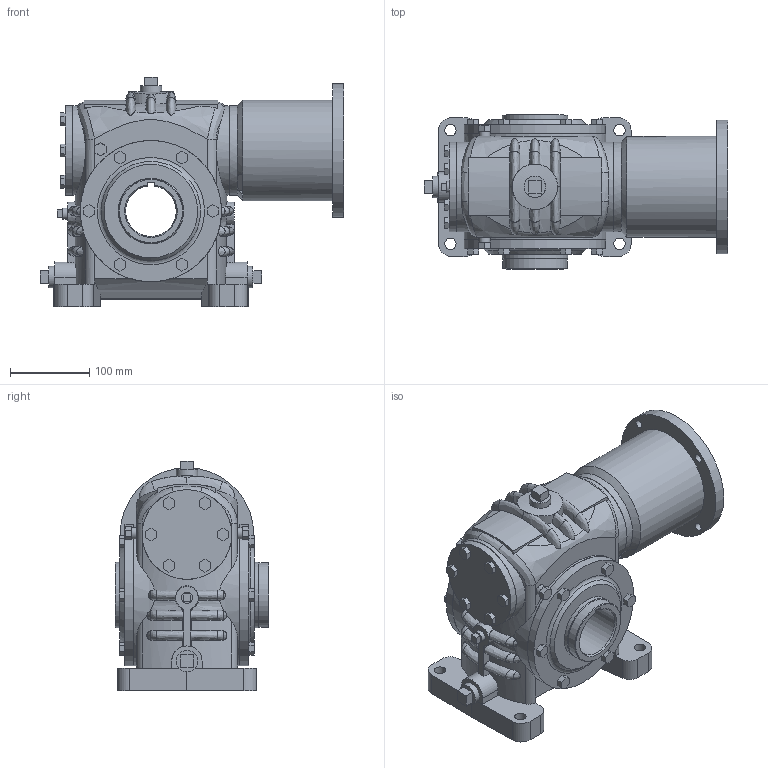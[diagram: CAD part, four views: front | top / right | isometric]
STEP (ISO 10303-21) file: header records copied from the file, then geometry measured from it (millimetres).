
FILE_DESCRIPTION(/* description */ ('Unknown'),/* implementation_level */ '2;1');
FILE_NAME(/* name */ 'HO-30-1-NBNG010',/* time_stamp */ '2024-11-21T09:24:01-05:00',/* author */ ('Unknown'),/* organization */ ('Unknown'),/* preprocessor_version */ 'ST-DEVELOPER v19.4',/* originating_system */ 'Solid Edge',/* authorisation */ 'Unknown');
FILE_SCHEMA (('AUTOMOTIVE_DESIGN {1 0 10303 214 3 1 1}'));
Length unit declared in the file: millimetre
Products named in the file (6): HO-30-1-NBNG010; 30-1-CP; 30-OUTHS-2500; 30-OUTH-2500; 30-MTR45-56C; 30-WCAP
Assembly tree (5 placements, depth 2):
  HO-30-1-NBNG010
    30-1-CP
    30-OUTHS-2500
    30-OUTH-2500
    30-MTR45-56C
    30-WCAP
Bounding box: 382.38 x 193.68 x 289.18 mm (x, y, z)
Volume: 7491919.5 mm3; surface area: 667479.4 mm2
Topology: 5 solids, 5 shells, 506 faces, 1289 edges, 861 vertices
Faces by surface type: plane 320, cylinder 114, bspline 59, cone 12, torus 1
Full cylindrical faces by diameter (mm): 0.254 x7, 6.35 x1, 9.525 x7, 10.319 x4, 14.122 x6, 14.224 x3, 14.287 x4, 25.387 x1, 26.924 x3, 26.987 x1, 57.15 x1, 65.088 x1, 76.2 x1, 76.708 x1, 80.975 x1, 81.026 x1, 81.483 x1, 82.448 x2, 82.549 x1, 82.956 x1, 111.252 x1, 112.712 x1, 112.776 x3, 114.3 x1, 114.338 x1, 127 x1, 168.148 x1, 177.8 x4
Entity records: 19730 total; most frequent: CARTESIAN_POINT 6712, ORIENTED_EDGE 2368, DIRECTION 2060, EDGE_CURVE 1184, VERTEX_POINT 831, LINE 700, VECTOR 700, AXIS2_PLACEMENT_3D 680
